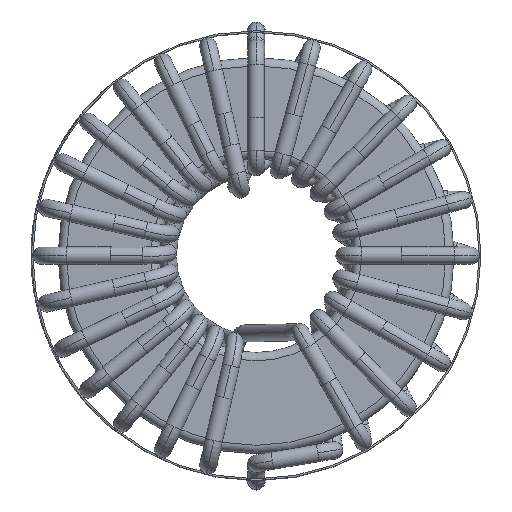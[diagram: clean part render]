
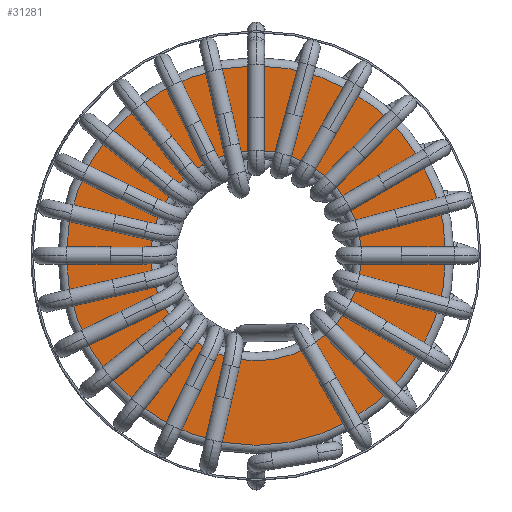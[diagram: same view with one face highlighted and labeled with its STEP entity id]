
A CAD part, top view. The second image highlights one B-rep face of the part: STEP entity #31281.
In plain terms, the highlighted planar face has unit normal (0, 0, 1).
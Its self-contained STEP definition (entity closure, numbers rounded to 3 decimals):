
#1071 = EDGE_LOOP ( 'NONE', ( #25603, #33155 ) ) ;
#1704 = AXIS2_PLACEMENT_3D ( 'NONE', #7500, #13606, #34466 ) ;
#2838 = CARTESIAN_POINT ( 'NONE',  ( 22.8, 0., 9.45 ) ) ;
#3683 = CIRCLE ( 'NONE', #20044, 12.65 ) ;
#3937 = AXIS2_PLACEMENT_3D ( 'NONE', #10741, #16755, #31613 ) ;
#4361 = CIRCLE ( 'NONE', #3937, 12.65 ) ;
#6262 = CARTESIAN_POINT ( 'NONE',  ( 12.65, 0., 9.45 ) ) ;
#7500 = CARTESIAN_POINT ( 'NONE',  ( 0., 0., 9.45 ) ) ;
#7707 = PLANE ( 'NONE',  #23385 ) ;
#8087 = VERTEX_POINT ( 'NONE', #2838 ) ;
#8481 = VERTEX_POINT ( 'NONE', #15185 ) ;
#8982 = CIRCLE ( 'NONE', #1704, 22.8 ) ;
#9089 = EDGE_CURVE ( 'NONE', #8087, #33328, #20898, .T. ) ;
#10692 = CARTESIAN_POINT ( 'NONE',  ( 0., 0., 9.45 ) ) ;
#10741 = CARTESIAN_POINT ( 'NONE',  ( 0., 0., 9.45 ) ) ;
#13096 = ORIENTED_EDGE ( 'NONE', *, *, #9089, .T. ) ;
#13164 = CARTESIAN_POINT ( 'NONE',  ( 0., 0., 9.45 ) ) ;
#13606 = DIRECTION ( 'NONE',  ( 0., 0., 1. ) ) ;
#13704 = DIRECTION ( 'NONE',  ( 1., 0., 0. ) ) ;
#15185 = CARTESIAN_POINT ( 'NONE',  ( -12.65, 0., 9.45 ) ) ;
#16755 = DIRECTION ( 'NONE',  ( 0., 0., -1. ) ) ;
#17471 = EDGE_CURVE ( 'NONE', #8481, #32022, #3683, .T. ) ;
#20044 = AXIS2_PLACEMENT_3D ( 'NONE', #26626, #23338, #38429 ) ;
#20898 = CIRCLE ( 'NONE', #37802, 22.8 ) ;
#22314 = CARTESIAN_POINT ( 'NONE',  ( -22.8, 0., 9.45 ) ) ;
#22470 = EDGE_CURVE ( 'NONE', #33328, #8087, #8982, .T. ) ;
#22485 = EDGE_CURVE ( 'NONE', #32022, #8481, #4361, .T. ) ;
#23003 = EDGE_LOOP ( 'NONE', ( #13096, #34116 ) ) ;
#23338 = DIRECTION ( 'NONE',  ( 0., 0., -1. ) ) ;
#23385 = AXIS2_PLACEMENT_3D ( 'NONE', #10692, #31569, #13704 ) ;
#25603 = ORIENTED_EDGE ( 'NONE', *, *, #22485, .T. ) ;
#26626 = CARTESIAN_POINT ( 'NONE',  ( 0., 0., 9.45 ) ) ;
#28052 = DIRECTION ( 'NONE',  ( 0., 0., 1. ) ) ;
#30782 = DIRECTION ( 'NONE',  ( 1., 0., 0. ) ) ;
#30949 = FACE_BOUND ( 'NONE', #1071, .T. ) ;
#31281 = ADVANCED_FACE ( 'NONE', ( #30949, #31883 ), #7707, .T. ) ;
#31569 = DIRECTION ( 'NONE',  ( 0., 0., 1. ) ) ;
#31613 = DIRECTION ( 'NONE',  ( 1., 0., 0. ) ) ;
#31883 = FACE_OUTER_BOUND ( 'NONE', #23003, .T. ) ;
#32022 = VERTEX_POINT ( 'NONE', #6262 ) ;
#33155 = ORIENTED_EDGE ( 'NONE', *, *, #17471, .T. ) ;
#33328 = VERTEX_POINT ( 'NONE', #22314 ) ;
#34116 = ORIENTED_EDGE ( 'NONE', *, *, #22470, .T. ) ;
#34466 = DIRECTION ( 'NONE',  ( 1., 0., 0. ) ) ;
#37802 = AXIS2_PLACEMENT_3D ( 'NONE', #13164, #28052, #30782 ) ;
#38429 = DIRECTION ( 'NONE',  ( 1., 0., 0. ) ) ;
